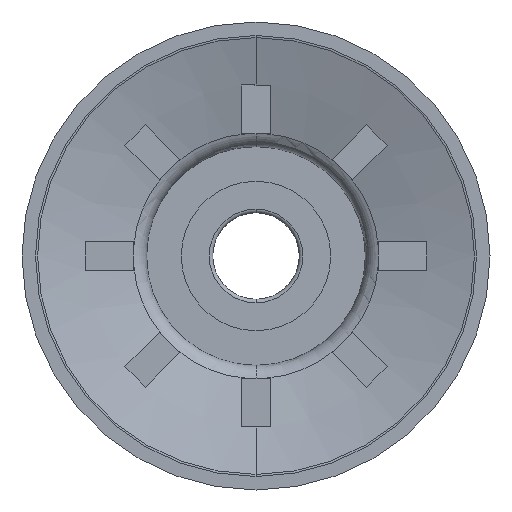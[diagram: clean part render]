
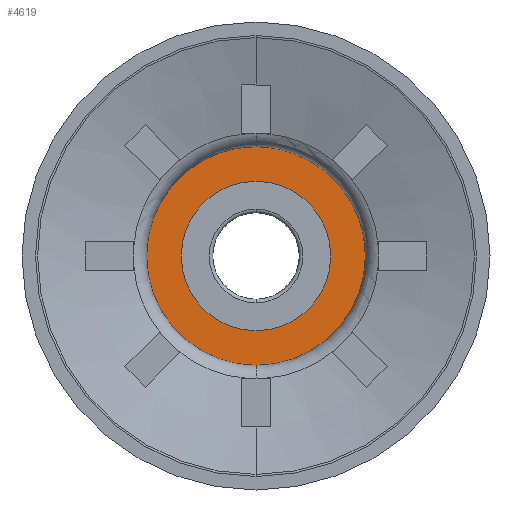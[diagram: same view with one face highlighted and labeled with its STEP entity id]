
A CAD part, front view. The second image highlights one B-rep face of the part: STEP entity #4619.
In plain terms, the highlighted planar face has unit normal (0, -1, 0).
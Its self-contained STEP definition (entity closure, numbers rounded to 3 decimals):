
#64 = CARTESIAN_POINT ( 'NONE',  ( 0., -6.3, -4.15 ) ) ;
#200 = EDGE_CURVE ( 'NONE', #2511, #5938, #2516, .T. ) ;
#249 = VERTEX_POINT ( 'NONE', #64 ) ;
#330 = DIRECTION ( 'NONE',  ( 0., 0., 1. ) ) ;
#354 = ORIENTED_EDGE ( 'NONE', *, *, #1470, .F. ) ;
#618 = CARTESIAN_POINT ( 'NONE',  ( 0., -6.3, 8.392 ) ) ;
#1189 = EDGE_LOOP ( 'NONE', ( #354, #3291 ) ) ;
#1429 = DIRECTION ( 'NONE',  ( 0., 0., 1. ) ) ;
#1470 = EDGE_CURVE ( 'NONE', #5938, #2511, #5177, .T. ) ;
#1521 = DIRECTION ( 'NONE',  ( 0., 1., 0. ) ) ;
#1580 = CARTESIAN_POINT ( 'NONE',  ( 0., -6.3, 4.15 ) ) ;
#1697 = AXIS2_PLACEMENT_3D ( 'NONE', #3823, #6309, #5302 ) ;
#1910 = CARTESIAN_POINT ( 'NONE',  ( 0., -6.3, 0. ) ) ;
#2077 = EDGE_CURVE ( 'NONE', #4085, #249, #5793, .T. ) ;
#2283 = ORIENTED_EDGE ( 'NONE', *, *, #2604, .T. ) ;
#2468 = CARTESIAN_POINT ( 'NONE',  ( 0., -6.3, 0. ) ) ;
#2492 = ORIENTED_EDGE ( 'NONE', *, *, #2077, .T. ) ;
#2511 = VERTEX_POINT ( 'NONE', #6078 ) ;
#2516 = CIRCLE ( 'NONE', #5072, 8.392 ) ;
#2604 = EDGE_CURVE ( 'NONE', #249, #4085, #4727, .T. ) ;
#2789 = AXIS2_PLACEMENT_3D ( 'NONE', #1910, #4929, #3849 ) ;
#3165 = DIRECTION ( 'NONE',  ( 0., 0., 1. ) ) ;
#3284 = FACE_OUTER_BOUND ( 'NONE', #1189, .T. ) ;
#3291 = ORIENTED_EDGE ( 'NONE', *, *, #200, .F. ) ;
#3379 = FACE_BOUND ( 'NONE', #4070, .T. ) ;
#3823 = CARTESIAN_POINT ( 'NONE',  ( 4.15, -6.3, 0. ) ) ;
#3847 = CARTESIAN_POINT ( 'NONE',  ( 0., -6.3, 0. ) ) ;
#3849 = DIRECTION ( 'NONE',  ( 0., 0., 1. ) ) ;
#4070 = EDGE_LOOP ( 'NONE', ( #2492, #2283 ) ) ;
#4085 = VERTEX_POINT ( 'NONE', #1580 ) ;
#4217 = DIRECTION ( 'NONE',  ( 0., 1., 0. ) ) ;
#4306 = PLANE ( 'NONE',  #1697 ) ;
#4619 = ADVANCED_FACE ( 'NONE', ( #3284, #3379 ), #4306, .F. ) ;
#4727 = CIRCLE ( 'NONE', #2789, 4.15 ) ;
#4929 = DIRECTION ( 'NONE',  ( 0., 1., 0. ) ) ;
#4970 = AXIS2_PLACEMENT_3D ( 'NONE', #3847, #5814, #1429 ) ;
#5072 = AXIS2_PLACEMENT_3D ( 'NONE', #2468, #1521, #3165 ) ;
#5177 = CIRCLE ( 'NONE', #4970, 8.392 ) ;
#5302 = DIRECTION ( 'NONE',  ( 0., 0., 1. ) ) ;
#5606 = CARTESIAN_POINT ( 'NONE',  ( 0., -6.3, 0. ) ) ;
#5682 = AXIS2_PLACEMENT_3D ( 'NONE', #5606, #4217, #330 ) ;
#5793 = CIRCLE ( 'NONE', #5682, 4.15 ) ;
#5814 = DIRECTION ( 'NONE',  ( 0., 1., 0. ) ) ;
#5938 = VERTEX_POINT ( 'NONE', #618 ) ;
#6078 = CARTESIAN_POINT ( 'NONE',  ( 0., -6.3, -8.392 ) ) ;
#6309 = DIRECTION ( 'NONE',  ( 0., 1., 0. ) ) ;
